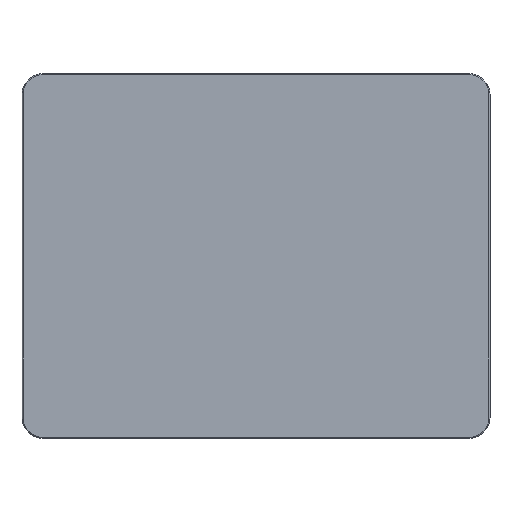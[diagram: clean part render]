
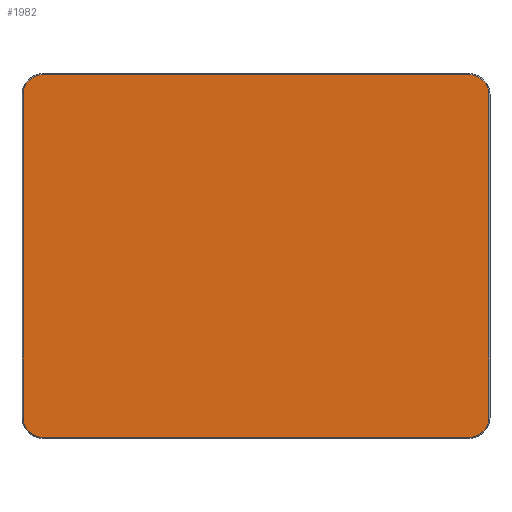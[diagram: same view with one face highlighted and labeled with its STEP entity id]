
A CAD part, top view. The second image highlights one B-rep face of the part: STEP entity #1982.
In plain terms, the highlighted planar face has unit normal (0, 0, 1).
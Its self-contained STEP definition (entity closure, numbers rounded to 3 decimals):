
#334 = PLANE('',#335);
#335 = AXIS2_PLACEMENT_3D('',#336,#337,#338);
#336 = CARTESIAN_POINT('',(-1.6,-81.675,29.875));
#337 = DIRECTION('',(0.,0.707,-0.707));
#338 = DIRECTION('',(-1.,-0.,-0.));
#417 = CONICAL_SURFACE('',#418,5.2,0.785);
#418 = AXIS2_PLACEMENT_3D('',#419,#420,#421);
#419 = CARTESIAN_POINT('',(101.6,-76.6,29.75));
#420 = DIRECTION('',(-0.,-0.,-1.));
#421 = DIRECTION('',(0.,-1.,0.));
#433 = VERTEX_POINT('',#434);
#434 = CARTESIAN_POINT('',(-1.6,-81.55,30.));
#447 = CONICAL_SURFACE('',#448,5.2,0.785);
#448 = AXIS2_PLACEMENT_3D('',#449,#450,#451);
#449 = CARTESIAN_POINT('',(-1.6,-76.6,29.75));
#450 = DIRECTION('',(-0.,-0.,-1.));
#451 = DIRECTION('',(-1.,0.,0.));
#460 = VERTEX_POINT('',#461);
#461 = CARTESIAN_POINT('',(101.6,-81.55,30.));
#480 = EDGE_CURVE('',#433,#460,#481,.T.);
#481 = SURFACE_CURVE('',#482,(#486,#493),.PCURVE_S1.);
#482 = LINE('',#483,#484);
#483 = CARTESIAN_POINT('',(-1.6,-81.55,30.));
#484 = VECTOR('',#485,1.);
#485 = DIRECTION('',(1.,0.,0.));
#486 = PCURVE('',#334,#487);
#487 = DEFINITIONAL_REPRESENTATION('',(#488),#492);
#488 = LINE('',#489,#490);
#489 = CARTESIAN_POINT('',(-0.,0.177));
#490 = VECTOR('',#491,1.);
#491 = DIRECTION('',(-1.,0.));
#492 = ( GEOMETRIC_REPRESENTATION_CONTEXT(2) 
PARAMETRIC_REPRESENTATION_CONTEXT() REPRESENTATION_CONTEXT('2D SPACE',''
  ) );
#493 = PCURVE('',#494,#499);
#494 = PLANE('',#495);
#495 = AXIS2_PLACEMENT_3D('',#496,#497,#498);
#496 = CARTESIAN_POINT('',(50.,-37.5,30.));
#497 = DIRECTION('',(0.,0.,1.));
#498 = DIRECTION('',(1.,0.,-0.));
#499 = DEFINITIONAL_REPRESENTATION('',(#500),#504);
#500 = LINE('',#501,#502);
#501 = CARTESIAN_POINT('',(-51.6,-44.05));
#502 = VECTOR('',#503,1.);
#503 = DIRECTION('',(1.,0.));
#504 = ( GEOMETRIC_REPRESENTATION_CONTEXT(2) 
PARAMETRIC_REPRESENTATION_CONTEXT() REPRESENTATION_CONTEXT('2D SPACE',''
  ) );
#1834 = VERTEX_POINT('',#1835);
#1835 = CARTESIAN_POINT('',(106.55,-76.6,30.));
#1848 = PLANE('',#1849);
#1849 = AXIS2_PLACEMENT_3D('',#1850,#1851,#1852);
#1850 = CARTESIAN_POINT('',(106.675,-76.6,29.875));
#1851 = DIRECTION('',(-0.707,0.,-0.707));
#1852 = DIRECTION('',(-0.,-1.,-0.));
#1859 = EDGE_CURVE('',#460,#1834,#1860,.T.);
#1860 = SURFACE_CURVE('',#1861,(#1866,#1873),.PCURVE_S1.);
#1861 = CIRCLE('',#1862,4.95);
#1862 = AXIS2_PLACEMENT_3D('',#1863,#1864,#1865);
#1863 = CARTESIAN_POINT('',(101.6,-76.6,30.));
#1864 = DIRECTION('',(0.,0.,1.));
#1865 = DIRECTION('',(0.,-1.,0.));
#1866 = PCURVE('',#417,#1867);
#1867 = DEFINITIONAL_REPRESENTATION('',(#1868),#1872);
#1868 = LINE('',#1869,#1870);
#1869 = CARTESIAN_POINT('',(-0.,-0.25));
#1870 = VECTOR('',#1871,1.);
#1871 = DIRECTION('',(-1.,-0.));
#1872 = ( GEOMETRIC_REPRESENTATION_CONTEXT(2) 
PARAMETRIC_REPRESENTATION_CONTEXT() REPRESENTATION_CONTEXT('2D SPACE',''
  ) );
#1873 = PCURVE('',#494,#1874);
#1874 = DEFINITIONAL_REPRESENTATION('',(#1875),#1879);
#1875 = CIRCLE('',#1876,4.95);
#1876 = AXIS2_PLACEMENT_2D('',#1877,#1878);
#1877 = CARTESIAN_POINT('',(51.6,-39.1));
#1878 = DIRECTION('',(0.,-1.));
#1879 = ( GEOMETRIC_REPRESENTATION_CONTEXT(2) 
PARAMETRIC_REPRESENTATION_CONTEXT() REPRESENTATION_CONTEXT('2D SPACE',''
  ) );
#1934 = VERTEX_POINT('',#1935);
#1935 = CARTESIAN_POINT('',(-6.55,-76.6,30.));
#1948 = PLANE('',#1949);
#1949 = AXIS2_PLACEMENT_3D('',#1950,#1951,#1952);
#1950 = CARTESIAN_POINT('',(-6.675,1.6,29.875));
#1951 = DIRECTION('',(0.707,0.,-0.707));
#1952 = DIRECTION('',(-0.,1.,-0.));
#1961 = EDGE_CURVE('',#1934,#433,#1962,.T.);
#1962 = SURFACE_CURVE('',#1963,(#1968,#1975),.PCURVE_S1.);
#1963 = CIRCLE('',#1964,4.95);
#1964 = AXIS2_PLACEMENT_3D('',#1965,#1966,#1967);
#1965 = CARTESIAN_POINT('',(-1.6,-76.6,30.));
#1966 = DIRECTION('',(0.,0.,1.));
#1967 = DIRECTION('',(-1.,0.,0.));
#1968 = PCURVE('',#447,#1969);
#1969 = DEFINITIONAL_REPRESENTATION('',(#1970),#1974);
#1970 = LINE('',#1971,#1972);
#1971 = CARTESIAN_POINT('',(-0.,-0.25));
#1972 = VECTOR('',#1973,1.);
#1973 = DIRECTION('',(-1.,-0.));
#1974 = ( GEOMETRIC_REPRESENTATION_CONTEXT(2) 
PARAMETRIC_REPRESENTATION_CONTEXT() REPRESENTATION_CONTEXT('2D SPACE',''
  ) );
#1975 = PCURVE('',#494,#1976);
#1976 = DEFINITIONAL_REPRESENTATION('',(#1977),#1981);
#1977 = CIRCLE('',#1978,4.95);
#1978 = AXIS2_PLACEMENT_2D('',#1979,#1980);
#1979 = CARTESIAN_POINT('',(-51.6,-39.1));
#1980 = DIRECTION('',(-1.,0.));
#1981 = ( GEOMETRIC_REPRESENTATION_CONTEXT(2) 
PARAMETRIC_REPRESENTATION_CONTEXT() REPRESENTATION_CONTEXT('2D SPACE',''
  ) );
#1982 = ADVANCED_FACE('',(#1983),#494,.T.);
#1983 = FACE_BOUND('',#1984,.T.);
#1984 = EDGE_LOOP('',(#1985,#1986,#1987,#2010,#2039,#2067,#2096,#2117));
#1985 = ORIENTED_EDGE('',*,*,#480,.T.);
#1986 = ORIENTED_EDGE('',*,*,#1859,.T.);
#1987 = ORIENTED_EDGE('',*,*,#1988,.T.);
#1988 = EDGE_CURVE('',#1834,#1989,#1991,.T.);
#1989 = VERTEX_POINT('',#1990);
#1990 = CARTESIAN_POINT('',(106.55,1.6,30.));
#1991 = SURFACE_CURVE('',#1992,(#1996,#2003),.PCURVE_S1.);
#1992 = LINE('',#1993,#1994);
#1993 = CARTESIAN_POINT('',(106.55,-76.6,30.));
#1994 = VECTOR('',#1995,1.);
#1995 = DIRECTION('',(0.,1.,0.));
#1996 = PCURVE('',#494,#1997);
#1997 = DEFINITIONAL_REPRESENTATION('',(#1998),#2002);
#1998 = LINE('',#1999,#2000);
#1999 = CARTESIAN_POINT('',(56.55,-39.1));
#2000 = VECTOR('',#2001,1.);
#2001 = DIRECTION('',(0.,1.));
#2002 = ( GEOMETRIC_REPRESENTATION_CONTEXT(2) 
PARAMETRIC_REPRESENTATION_CONTEXT() REPRESENTATION_CONTEXT('2D SPACE',''
  ) );
#2003 = PCURVE('',#1848,#2004);
#2004 = DEFINITIONAL_REPRESENTATION('',(#2005),#2009);
#2005 = LINE('',#2006,#2007);
#2006 = CARTESIAN_POINT('',(-0.,0.177));
#2007 = VECTOR('',#2008,1.);
#2008 = DIRECTION('',(-1.,0.));
#2009 = ( GEOMETRIC_REPRESENTATION_CONTEXT(2) 
PARAMETRIC_REPRESENTATION_CONTEXT() REPRESENTATION_CONTEXT('2D SPACE',''
  ) );
#2010 = ORIENTED_EDGE('',*,*,#2011,.T.);
#2011 = EDGE_CURVE('',#1989,#2012,#2014,.T.);
#2012 = VERTEX_POINT('',#2013);
#2013 = CARTESIAN_POINT('',(101.6,6.55,30.));
#2014 = SURFACE_CURVE('',#2015,(#2020,#2027),.PCURVE_S1.);
#2015 = CIRCLE('',#2016,4.95);
#2016 = AXIS2_PLACEMENT_3D('',#2017,#2018,#2019);
#2017 = CARTESIAN_POINT('',(101.6,1.6,30.));
#2018 = DIRECTION('',(0.,0.,1.));
#2019 = DIRECTION('',(1.,0.,0.));
#2020 = PCURVE('',#494,#2021);
#2021 = DEFINITIONAL_REPRESENTATION('',(#2022),#2026);
#2022 = CIRCLE('',#2023,4.95);
#2023 = AXIS2_PLACEMENT_2D('',#2024,#2025);
#2024 = CARTESIAN_POINT('',(51.6,39.1));
#2025 = DIRECTION('',(1.,0.));
#2026 = ( GEOMETRIC_REPRESENTATION_CONTEXT(2) 
PARAMETRIC_REPRESENTATION_CONTEXT() REPRESENTATION_CONTEXT('2D SPACE',''
  ) );
#2027 = PCURVE('',#2028,#2033);
#2028 = CONICAL_SURFACE('',#2029,5.2,0.785);
#2029 = AXIS2_PLACEMENT_3D('',#2030,#2031,#2032);
#2030 = CARTESIAN_POINT('',(101.6,1.6,29.75));
#2031 = DIRECTION('',(-0.,-0.,-1.));
#2032 = DIRECTION('',(1.,0.,0.));
#2033 = DEFINITIONAL_REPRESENTATION('',(#2034),#2038);
#2034 = LINE('',#2035,#2036);
#2035 = CARTESIAN_POINT('',(-0.,-0.25));
#2036 = VECTOR('',#2037,1.);
#2037 = DIRECTION('',(-1.,-0.));
#2038 = ( GEOMETRIC_REPRESENTATION_CONTEXT(2) 
PARAMETRIC_REPRESENTATION_CONTEXT() REPRESENTATION_CONTEXT('2D SPACE',''
  ) );
#2039 = ORIENTED_EDGE('',*,*,#2040,.T.);
#2040 = EDGE_CURVE('',#2012,#2041,#2043,.T.);
#2041 = VERTEX_POINT('',#2042);
#2042 = CARTESIAN_POINT('',(-1.6,6.55,30.));
#2043 = SURFACE_CURVE('',#2044,(#2048,#2055),.PCURVE_S1.);
#2044 = LINE('',#2045,#2046);
#2045 = CARTESIAN_POINT('',(101.6,6.55,30.));
#2046 = VECTOR('',#2047,1.);
#2047 = DIRECTION('',(-1.,0.,0.));
#2048 = PCURVE('',#494,#2049);
#2049 = DEFINITIONAL_REPRESENTATION('',(#2050),#2054);
#2050 = LINE('',#2051,#2052);
#2051 = CARTESIAN_POINT('',(51.6,44.05));
#2052 = VECTOR('',#2053,1.);
#2053 = DIRECTION('',(-1.,0.));
#2054 = ( GEOMETRIC_REPRESENTATION_CONTEXT(2) 
PARAMETRIC_REPRESENTATION_CONTEXT() REPRESENTATION_CONTEXT('2D SPACE',''
  ) );
#2055 = PCURVE('',#2056,#2061);
#2056 = PLANE('',#2057);
#2057 = AXIS2_PLACEMENT_3D('',#2058,#2059,#2060);
#2058 = CARTESIAN_POINT('',(101.6,6.675,29.875));
#2059 = DIRECTION('',(0.,-0.707,-0.707));
#2060 = DIRECTION('',(1.,0.,-0.));
#2061 = DEFINITIONAL_REPRESENTATION('',(#2062),#2066);
#2062 = LINE('',#2063,#2064);
#2063 = CARTESIAN_POINT('',(-0.,0.177));
#2064 = VECTOR('',#2065,1.);
#2065 = DIRECTION('',(-1.,0.));
#2066 = ( GEOMETRIC_REPRESENTATION_CONTEXT(2) 
PARAMETRIC_REPRESENTATION_CONTEXT() REPRESENTATION_CONTEXT('2D SPACE',''
  ) );
#2067 = ORIENTED_EDGE('',*,*,#2068,.T.);
#2068 = EDGE_CURVE('',#2041,#2069,#2071,.T.);
#2069 = VERTEX_POINT('',#2070);
#2070 = CARTESIAN_POINT('',(-6.55,1.6,30.));
#2071 = SURFACE_CURVE('',#2072,(#2077,#2084),.PCURVE_S1.);
#2072 = CIRCLE('',#2073,4.95);
#2073 = AXIS2_PLACEMENT_3D('',#2074,#2075,#2076);
#2074 = CARTESIAN_POINT('',(-1.6,1.6,30.));
#2075 = DIRECTION('',(0.,0.,1.));
#2076 = DIRECTION('',(0.,1.,-0.));
#2077 = PCURVE('',#494,#2078);
#2078 = DEFINITIONAL_REPRESENTATION('',(#2079),#2083);
#2079 = CIRCLE('',#2080,4.95);
#2080 = AXIS2_PLACEMENT_2D('',#2081,#2082);
#2081 = CARTESIAN_POINT('',(-51.6,39.1));
#2082 = DIRECTION('',(0.,1.));
#2083 = ( GEOMETRIC_REPRESENTATION_CONTEXT(2) 
PARAMETRIC_REPRESENTATION_CONTEXT() REPRESENTATION_CONTEXT('2D SPACE',''
  ) );
#2084 = PCURVE('',#2085,#2090);
#2085 = CONICAL_SURFACE('',#2086,5.2,0.785);
#2086 = AXIS2_PLACEMENT_3D('',#2087,#2088,#2089);
#2087 = CARTESIAN_POINT('',(-1.6,1.6,29.75));
#2088 = DIRECTION('',(-0.,-0.,-1.));
#2089 = DIRECTION('',(0.,1.,-0.));
#2090 = DEFINITIONAL_REPRESENTATION('',(#2091),#2095);
#2091 = LINE('',#2092,#2093);
#2092 = CARTESIAN_POINT('',(-0.,-0.25));
#2093 = VECTOR('',#2094,1.);
#2094 = DIRECTION('',(-1.,-0.));
#2095 = ( GEOMETRIC_REPRESENTATION_CONTEXT(2) 
PARAMETRIC_REPRESENTATION_CONTEXT() REPRESENTATION_CONTEXT('2D SPACE',''
  ) );
#2096 = ORIENTED_EDGE('',*,*,#2097,.T.);
#2097 = EDGE_CURVE('',#2069,#1934,#2098,.T.);
#2098 = SURFACE_CURVE('',#2099,(#2103,#2110),.PCURVE_S1.);
#2099 = LINE('',#2100,#2101);
#2100 = CARTESIAN_POINT('',(-6.55,1.6,30.));
#2101 = VECTOR('',#2102,1.);
#2102 = DIRECTION('',(0.,-1.,0.));
#2103 = PCURVE('',#494,#2104);
#2104 = DEFINITIONAL_REPRESENTATION('',(#2105),#2109);
#2105 = LINE('',#2106,#2107);
#2106 = CARTESIAN_POINT('',(-56.55,39.1));
#2107 = VECTOR('',#2108,1.);
#2108 = DIRECTION('',(0.,-1.));
#2109 = ( GEOMETRIC_REPRESENTATION_CONTEXT(2) 
PARAMETRIC_REPRESENTATION_CONTEXT() REPRESENTATION_CONTEXT('2D SPACE',''
  ) );
#2110 = PCURVE('',#1948,#2111);
#2111 = DEFINITIONAL_REPRESENTATION('',(#2112),#2116);
#2112 = LINE('',#2113,#2114);
#2113 = CARTESIAN_POINT('',(-0.,0.177));
#2114 = VECTOR('',#2115,1.);
#2115 = DIRECTION('',(-1.,0.));
#2116 = ( GEOMETRIC_REPRESENTATION_CONTEXT(2) 
PARAMETRIC_REPRESENTATION_CONTEXT() REPRESENTATION_CONTEXT('2D SPACE',''
  ) );
#2117 = ORIENTED_EDGE('',*,*,#1961,.T.);
